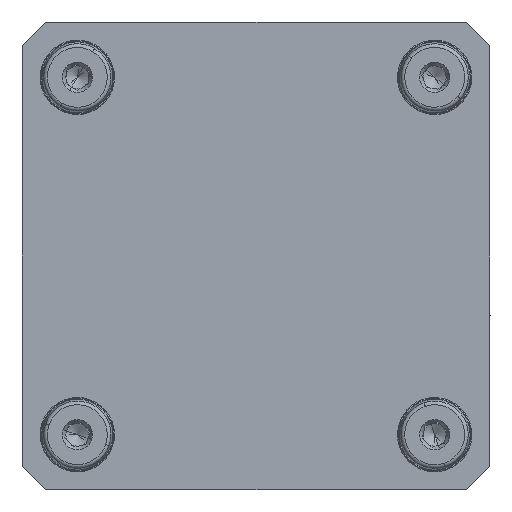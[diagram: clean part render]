
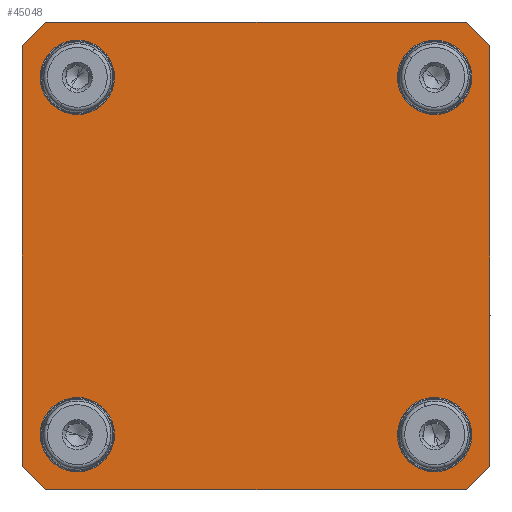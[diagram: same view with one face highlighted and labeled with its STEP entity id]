
A CAD part, front view. The second image highlights one B-rep face of the part: STEP entity #45048.
In plain terms, the highlighted planar face has unit normal (0, -1, 0).
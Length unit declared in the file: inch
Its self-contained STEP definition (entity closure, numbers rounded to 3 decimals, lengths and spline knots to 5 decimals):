
#65 = EDGE_LOOP ( 'NONE', ( #6848, #35346, #11290, #19039, #15868, #1760, #1879, #37131 ) ) ;
#767 = CARTESIAN_POINT ( 'NONE',  ( -2.475, 0., -2.225 ) ) ;
#1760 = ORIENTED_EDGE ( 'NONE', *, *, #43355, .T. ) ;
#1832 = VECTOR ( 'NONE', #42023, 39.37008 ) ;
#1838 = LINE ( 'NONE', #35643, #38880 ) ;
#1879 = ORIENTED_EDGE ( 'NONE', *, *, #31682, .F. ) ;
#2746 = CARTESIAN_POINT ( 'NONE',  ( -2.225, 0., 2.475 ) ) ;
#2897 = CARTESIAN_POINT ( 'NONE',  ( -2.225, 0., -2.475 ) ) ;
#3300 = VERTEX_POINT ( 'NONE', #21472 ) ;
#3394 = DIRECTION ( 'NONE',  ( 0., -1., 0. ) ) ;
#3503 = ORIENTED_EDGE ( 'NONE', *, *, #4469, .F. ) ;
#3518 = FACE_BOUND ( 'NONE', #33015, .T. ) ;
#3676 = LINE ( 'NONE', #21496, #26816 ) ;
#3746 = AXIS2_PLACEMENT_3D ( 'NONE', #13480, #36168, #20931 ) ;
#4469 = EDGE_CURVE ( 'NONE', #27569, #35679, #27981, .T. ) ;
#4606 = DIRECTION ( 'NONE',  ( 0.707, 0., -0.707 ) ) ;
#5242 = CIRCLE ( 'NONE', #3746, 0.31495 ) ;
#5742 = CARTESIAN_POINT ( 'NONE',  ( -2.475, 0., -2.225 ) ) ;
#5824 = FACE_BOUND ( 'NONE', #22888, .T. ) ;
#5849 = VERTEX_POINT ( 'NONE', #8352 ) ;
#6225 = LINE ( 'NONE', #15876, #46232 ) ;
#6643 = DIRECTION ( 'NONE',  ( 1., 0., 0. ) ) ;
#6848 = ORIENTED_EDGE ( 'NONE', *, *, #27048, .F. ) ;
#7201 = EDGE_CURVE ( 'NONE', #25275, #26841, #34116, .T. ) ;
#7991 = DIRECTION ( 'NONE',  ( 0., 0., 1. ) ) ;
#8352 = CARTESIAN_POINT ( 'NONE',  ( 2.225, 0., -2.475 ) ) ;
#8584 = CARTESIAN_POINT ( 'NONE',  ( 1.88976, 0., 2.20471 ) ) ;
#9266 = FACE_BOUND ( 'NONE', #14394, .T. ) ;
#9557 = DIRECTION ( 'NONE',  ( 0., 0., 1. ) ) ;
#10069 = EDGE_LOOP ( 'NONE', ( #14562, #39043 ) ) ;
#10402 = AXIS2_PLACEMENT_3D ( 'NONE', #44972, #26448, #7991 ) ;
#10586 = AXIS2_PLACEMENT_3D ( 'NONE', #31416, #23965, #9557 ) ;
#10675 = AXIS2_PLACEMENT_3D ( 'NONE', #36838, #25971, #37003 ) ;
#10842 = VERTEX_POINT ( 'NONE', #40498 ) ;
#11225 = VERTEX_POINT ( 'NONE', #38856 ) ;
#11290 = ORIENTED_EDGE ( 'NONE', *, *, #30041, .F. ) ;
#11614 = LINE ( 'NONE', #34609, #1832 ) ;
#11859 = EDGE_CURVE ( 'NONE', #21866, #13568, #47694, .T. ) ;
#12354 = LINE ( 'NONE', #40570, #21017 ) ;
#12537 = CARTESIAN_POINT ( 'NONE',  ( 1.88976, 0., 1.88976 ) ) ;
#12828 = LINE ( 'NONE', #31635, #17421 ) ;
#13480 = CARTESIAN_POINT ( 'NONE',  ( 1.88976, 0., -1.88976 ) ) ;
#13568 = VERTEX_POINT ( 'NONE', #37550 ) ;
#13699 = VERTEX_POINT ( 'NONE', #15783 ) ;
#14394 = EDGE_LOOP ( 'NONE', ( #18619, #3503 ) ) ;
#14562 = ORIENTED_EDGE ( 'NONE', *, *, #22183, .F. ) ;
#15405 = ORIENTED_EDGE ( 'NONE', *, *, #11859, .F. ) ;
#15783 = CARTESIAN_POINT ( 'NONE',  ( 2.225, 0., 2.475 ) ) ;
#15868 = ORIENTED_EDGE ( 'NONE', *, *, #44821, .F. ) ;
#15876 = CARTESIAN_POINT ( 'NONE',  ( -2.475, 0., -2.475 ) ) ;
#16610 = CIRCLE ( 'NONE', #32953, 0.31495 ) ;
#16946 = CARTESIAN_POINT ( 'NONE',  ( -2.475, 0., 2.225 ) ) ;
#17181 = EDGE_CURVE ( 'NONE', #13568, #21866, #39591, .T. ) ;
#17227 = CARTESIAN_POINT ( 'NONE',  ( -1.88976, 0., 1.57481 ) ) ;
#17421 = VECTOR ( 'NONE', #38648, 39.37008 ) ;
#17440 = CARTESIAN_POINT ( 'NONE',  ( -1.88976, 0., 1.88976 ) ) ;
#18086 = DIRECTION ( 'NONE',  ( 0., -1., 0. ) ) ;
#18619 = ORIENTED_EDGE ( 'NONE', *, *, #30129, .F. ) ;
#19039 = ORIENTED_EDGE ( 'NONE', *, *, #35731, .T. ) ;
#19789 = CARTESIAN_POINT ( 'NONE',  ( -1.88976, 0., 2.20471 ) ) ;
#19821 = CARTESIAN_POINT ( 'NONE',  ( 0., 0., 0. ) ) ;
#19828 = CARTESIAN_POINT ( 'NONE',  ( 1.88976, 0., 1.57481 ) ) ;
#19968 = AXIS2_PLACEMENT_3D ( 'NONE', #47122, #3394, #47283 ) ;
#20931 = DIRECTION ( 'NONE',  ( 0., 0., -1. ) ) ;
#21017 = VECTOR ( 'NONE', #21932, 39.37008 ) ;
#21472 = CARTESIAN_POINT ( 'NONE',  ( 1.88976, 0., -1.57481 ) ) ;
#21496 = CARTESIAN_POINT ( 'NONE',  ( 2.225, 0., -2.475 ) ) ;
#21866 = VERTEX_POINT ( 'NONE', #41211 ) ;
#21877 = AXIS2_PLACEMENT_3D ( 'NONE', #12537, #30661, #27116 ) ;
#21932 = DIRECTION ( 'NONE',  ( 0., 0., -1. ) ) ;
#22183 = EDGE_CURVE ( 'NONE', #10842, #3300, #16610, .T. ) ;
#22888 = EDGE_LOOP ( 'NONE', ( #42010, #42300 ) ) ;
#23160 = FACE_OUTER_BOUND ( 'NONE', #65, .T. ) ;
#23965 = DIRECTION ( 'NONE',  ( 0., -1., 0. ) ) ;
#24235 = VECTOR ( 'NONE', #4606, 39.37008 ) ;
#25275 = VERTEX_POINT ( 'NONE', #5742 ) ;
#25825 = VERTEX_POINT ( 'NONE', #2746 ) ;
#25971 = DIRECTION ( 'NONE',  ( 0., -1., 0. ) ) ;
#26145 = VERTEX_POINT ( 'NONE', #16946 ) ;
#26448 = DIRECTION ( 'NONE',  ( 0., -1., 0. ) ) ;
#26816 = VECTOR ( 'NONE', #47484, 39.37008 ) ;
#26841 = VERTEX_POINT ( 'NONE', #2897 ) ;
#26865 = CIRCLE ( 'NONE', #10402, 0.31495 ) ;
#26921 = DIRECTION ( 'NONE',  ( -1., 0., 0. ) ) ;
#27048 = EDGE_CURVE ( 'NONE', #5849, #26841, #6225, .T. ) ;
#27116 = DIRECTION ( 'NONE',  ( 0., 0., 1. ) ) ;
#27173 = VERTEX_POINT ( 'NONE', #19789 ) ;
#27569 = VERTEX_POINT ( 'NONE', #8584 ) ;
#27981 = CIRCLE ( 'NONE', #21877, 0.31495 ) ;
#28224 = ORIENTED_EDGE ( 'NONE', *, *, #17181, .F. ) ;
#28546 = LINE ( 'NONE', #44723, #40705 ) ;
#28608 = CIRCLE ( 'NONE', #47710, 0.31495 ) ;
#29931 = EDGE_CURVE ( 'NONE', #27173, #34744, #35783, .T. ) ;
#30041 = EDGE_CURVE ( 'NONE', #46939, #11225, #12354, .T. ) ;
#30129 = EDGE_CURVE ( 'NONE', #35679, #27569, #26865, .T. ) ;
#30134 = FACE_BOUND ( 'NONE', #10069, .T. ) ;
#30194 = EDGE_CURVE ( 'NONE', #34744, #27173, #28608, .T. ) ;
#30525 = EDGE_CURVE ( 'NONE', #5849, #11225, #3676, .T. ) ;
#30661 = DIRECTION ( 'NONE',  ( 0., -1., 0. ) ) ;
#31416 = CARTESIAN_POINT ( 'NONE',  ( -1.88976, 0., -1.88976 ) ) ;
#31635 = CARTESIAN_POINT ( 'NONE',  ( 2.475, 0., 2.225 ) ) ;
#31682 = EDGE_CURVE ( 'NONE', #25275, #26145, #11614, .T. ) ;
#31785 = DIRECTION ( 'NONE',  ( 0., 0., -1. ) ) ;
#31932 = CARTESIAN_POINT ( 'NONE',  ( 1.88976, 0., -1.88976 ) ) ;
#32953 = AXIS2_PLACEMENT_3D ( 'NONE', #31932, #42836, #31785 ) ;
#33015 = EDGE_LOOP ( 'NONE', ( #15405, #28224 ) ) ;
#34116 = LINE ( 'NONE', #767, #24235 ) ;
#34609 = CARTESIAN_POINT ( 'NONE',  ( -2.475, 0., -2.475 ) ) ;
#34744 = VERTEX_POINT ( 'NONE', #17227 ) ;
#34911 = DIRECTION ( 'NONE',  ( 0., 0., 1. ) ) ;
#35346 = ORIENTED_EDGE ( 'NONE', *, *, #30525, .T. ) ;
#35643 = CARTESIAN_POINT ( 'NONE',  ( -2.475, 0., 2.475 ) ) ;
#35679 = VERTEX_POINT ( 'NONE', #19828 ) ;
#35731 = EDGE_CURVE ( 'NONE', #46939, #13699, #12828, .T. ) ;
#35783 = CIRCLE ( 'NONE', #19968, 0.31495 ) ;
#36168 = DIRECTION ( 'NONE',  ( 0., -1., 0. ) ) ;
#36838 = CARTESIAN_POINT ( 'NONE',  ( -1.88976, 0., -1.88976 ) ) ;
#36954 = EDGE_CURVE ( 'NONE', #3300, #10842, #5242, .T. ) ;
#37003 = DIRECTION ( 'NONE',  ( 0., 0., 1. ) ) ;
#37131 = ORIENTED_EDGE ( 'NONE', *, *, #7201, .T. ) ;
#37550 = CARTESIAN_POINT ( 'NONE',  ( -1.88976, 0., -1.57481 ) ) ;
#38470 = PLANE ( 'NONE',  #41225 ) ;
#38648 = DIRECTION ( 'NONE',  ( -0.707, 0., 0.707 ) ) ;
#38856 = CARTESIAN_POINT ( 'NONE',  ( 2.475, 0., -2.225 ) ) ;
#38880 = VECTOR ( 'NONE', #6643, 39.37008 ) ;
#39043 = ORIENTED_EDGE ( 'NONE', *, *, #36954, .F. ) ;
#39591 = CIRCLE ( 'NONE', #10586, 0.31495 ) ;
#40498 = CARTESIAN_POINT ( 'NONE',  ( 1.88976, 0., -2.20471 ) ) ;
#40570 = CARTESIAN_POINT ( 'NONE',  ( 2.475, 0., -2.475 ) ) ;
#40705 = VECTOR ( 'NONE', #45192, 39.37008 ) ;
#41211 = CARTESIAN_POINT ( 'NONE',  ( -1.88976, 0., -2.20471 ) ) ;
#41225 = AXIS2_PLACEMENT_3D ( 'NONE', #19821, #45810, #34911 ) ;
#42010 = ORIENTED_EDGE ( 'NONE', *, *, #30194, .F. ) ;
#42023 = DIRECTION ( 'NONE',  ( 0., 0., 1. ) ) ;
#42300 = ORIENTED_EDGE ( 'NONE', *, *, #29931, .F. ) ;
#42836 = DIRECTION ( 'NONE',  ( 0., -1., 0. ) ) ;
#43355 = EDGE_CURVE ( 'NONE', #25825, #26145, #28546, .T. ) ;
#43725 = DIRECTION ( 'NONE',  ( 0., 0., -1. ) ) ;
#44723 = CARTESIAN_POINT ( 'NONE',  ( -2.225, 0., 2.475 ) ) ;
#44821 = EDGE_CURVE ( 'NONE', #25825, #13699, #1838, .T. ) ;
#44972 = CARTESIAN_POINT ( 'NONE',  ( 1.88976, 0., 1.88976 ) ) ;
#45048 = ADVANCED_FACE ( 'NONE', ( #9266, #3518, #30134, #5824, #23160 ), #38470, .F. ) ;
#45192 = DIRECTION ( 'NONE',  ( -0.707, 0., -0.707 ) ) ;
#45710 = CARTESIAN_POINT ( 'NONE',  ( 2.475, 0., 2.225 ) ) ;
#45810 = DIRECTION ( 'NONE',  ( 0., 1., 0. ) ) ;
#46232 = VECTOR ( 'NONE', #26921, 39.37008 ) ;
#46939 = VERTEX_POINT ( 'NONE', #45710 ) ;
#47122 = CARTESIAN_POINT ( 'NONE',  ( -1.88976, 0., 1.88976 ) ) ;
#47283 = DIRECTION ( 'NONE',  ( 0., 0., -1. ) ) ;
#47484 = DIRECTION ( 'NONE',  ( 0.707, 0., 0.707 ) ) ;
#47694 = CIRCLE ( 'NONE', #10675, 0.31495 ) ;
#47710 = AXIS2_PLACEMENT_3D ( 'NONE', #17440, #18086, #43725 ) ;
